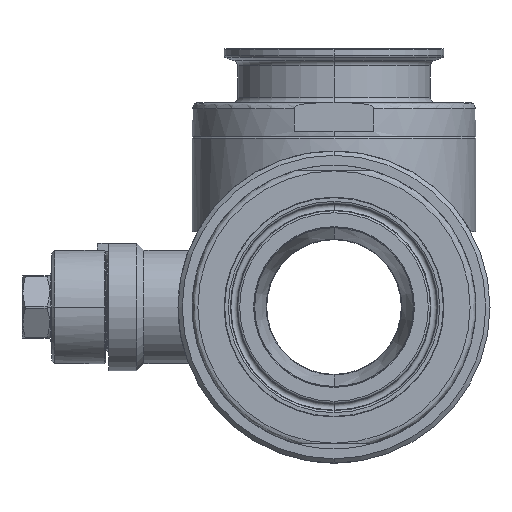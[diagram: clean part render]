
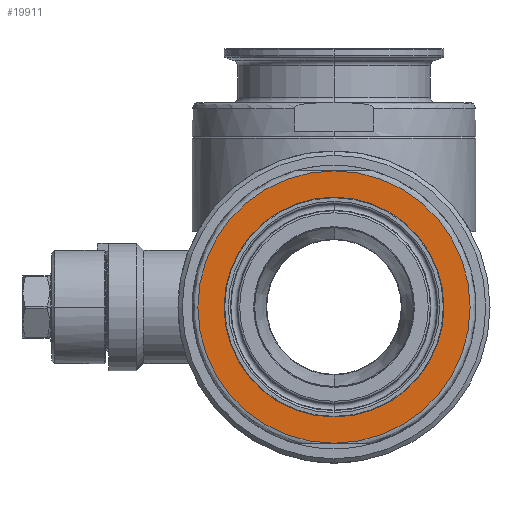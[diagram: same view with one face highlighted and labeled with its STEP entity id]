
A CAD part, left-side view. The second image highlights one B-rep face of the part: STEP entity #19911.
In plain terms, the highlighted planar face has unit normal (-1, 0, 0).
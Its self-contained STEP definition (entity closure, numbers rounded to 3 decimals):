
#19124=CARTESIAN_POINT('',(-72.,0.,0.));
#19125=DIRECTION('',(-1.,0.,0.));
#19126=DIRECTION('',(0.,0.,1.));
#19127=AXIS2_PLACEMENT_3D('',#19124,#19125,#19126);
#19144=CARTESIAN_POINT('',(-72.,0.,0.));
#19145=DIRECTION('',(1.,0.,0.));
#19146=DIRECTION('',(0.,0.,1.));
#19147=AXIS2_PLACEMENT_3D('',#19144,#19145,#19146);
#19185=CARTESIAN_POINT('',(-72.,0.,0.));
#19186=DIRECTION('',(-1.,0.,0.));
#19187=DIRECTION('',(0.,0.,1.));
#19188=AXIS2_PLACEMENT_3D('',#19185,#19186,#19187);
#19274=CARTESIAN_POINT('',(-72.,0.,0.));
#19275=DIRECTION('',(1.,0.,0.));
#19276=DIRECTION('',(0.,0.,1.));
#19277=AXIS2_PLACEMENT_3D('',#19274,#19275,#19276);
#19598=CARTESIAN_POINT('',(-72.,0.,48.));
#19599=CARTESIAN_POINT('',(-72.,0.,-48.));
#19600=VERTEX_POINT('',#19598);
#19601=VERTEX_POINT('',#19599);
#19606=CARTESIAN_POINT('',(-72.,0.,36.));
#19607=CARTESIAN_POINT('',(-72.,0.,-36.));
#19608=VERTEX_POINT('',#19606);
#19609=VERTEX_POINT('',#19607);
#19895=CARTESIAN_POINT('',(-72.,0.,0.));
#19896=DIRECTION('',(-1.,0.,0.));
#19897=DIRECTION('',(0.,0.,-1.));
#19898=AXIS2_PLACEMENT_3D('',#19895,#19896,#19897);
#19899=PLANE('',#19898);
#19901=ORIENTED_EDGE('',*,*,#19900,.F.);
#19903=ORIENTED_EDGE('',*,*,#19902,.T.);
#19904=EDGE_LOOP('',(#19901,#19903));
#19905=FACE_OUTER_BOUND('',#19904,.F.);
#19907=ORIENTED_EDGE('',*,*,#19906,.F.);
#19908=ORIENTED_EDGE('',*,*,#19885,.T.);
#19909=EDGE_LOOP('',(#19907,#19908));
#19910=FACE_BOUND('',#19909,.F.);
#19911=ADVANCED_FACE('',(#19905,#19910),#19899,.T.);
#19128=CIRCLE('',#19127,36.);
#19148=CIRCLE('',#19147,36.);
#19189=CIRCLE('',#19188,48.);
#19278=CIRCLE('',#19277,48.);
#19885=EDGE_CURVE('',#19608,#19609,#19128,.T.);
#19900=EDGE_CURVE('',#19600,#19601,#19189,.T.);
#19902=EDGE_CURVE('',#19600,#19601,#19278,.T.);
#19906=EDGE_CURVE('',#19608,#19609,#19148,.T.);
